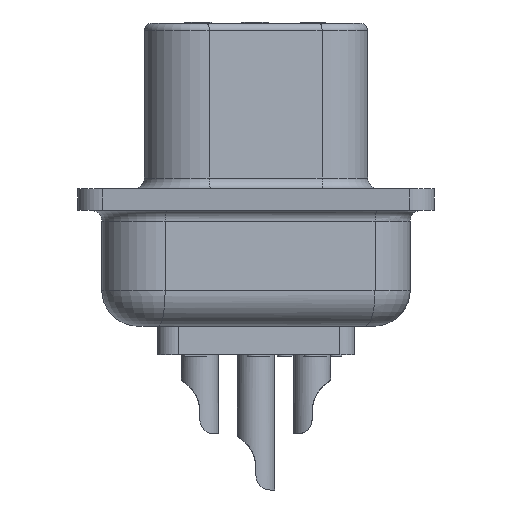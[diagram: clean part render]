
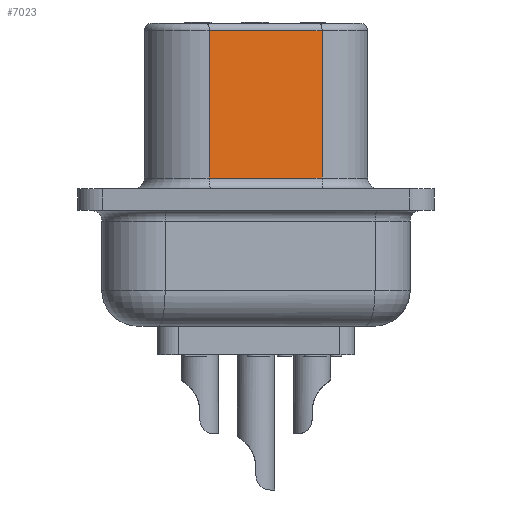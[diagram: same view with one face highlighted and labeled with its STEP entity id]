
A CAD part, left-side view. The second image highlights one B-rep face of the part: STEP entity #7023.
In plain terms, the highlighted planar face has unit normal (-0.985, -0.174, 0).
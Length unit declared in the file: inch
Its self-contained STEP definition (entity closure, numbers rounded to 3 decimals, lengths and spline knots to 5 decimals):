
#2534 = DIRECTION ( 'NONE',  ( 0.174, -0.985, 0. ) ) ;
#2670 = EDGE_CURVE ( 'NONE', #7050, #42230, #17055, .T. ) ;
#2962 = LINE ( 'NONE', #18655, #41592 ) ;
#3119 = ORIENTED_EDGE ( 'NONE', *, *, #7557, .F. ) ;
#3672 = CARTESIAN_POINT ( 'NONE',  ( 0.31485, 0.15613, 0.22 ) ) ;
#3903 = VERTEX_POINT ( 'NONE', #25592 ) ;
#3918 = CARTESIAN_POINT ( 'NONE',  ( 0.28717, 0.31313, 0.22 ) ) ;
#6517 = ORIENTED_EDGE ( 'NONE', *, *, #7575, .T. ) ;
#7023 = ADVANCED_FACE ( 'NONE', ( #12703 ), #29445, .F. ) ;
#7050 = VERTEX_POINT ( 'NONE', #3672 ) ;
#7557 = EDGE_CURVE ( 'NONE', #7050, #33602, #36833, .T. ) ;
#7575 = EDGE_CURVE ( 'NONE', #42230, #3903, #20523, .T. ) ;
#9406 = VECTOR ( 'NONE', #24346, 39.37008 ) ;
#9905 = DIRECTION ( 'NONE',  ( -0.174, 0.985, 0. ) ) ;
#10132 = DIRECTION ( 'NONE',  ( 0.985, 0.174, 0. ) ) ;
#11065 = CARTESIAN_POINT ( 'NONE',  ( 0.28717, 0.31313, 0.23 ) ) ;
#12488 = CARTESIAN_POINT ( 'NONE',  ( 0.31485, 0.15613, 0.23 ) ) ;
#12703 = FACE_OUTER_BOUND ( 'NONE', #41085, .T. ) ;
#14079 = DIRECTION ( 'NONE',  ( 0., 0., -1. ) ) ;
#15077 = CARTESIAN_POINT ( 'NONE',  ( 0.31485, 0.15613, 0.015 ) ) ;
#17055 = LINE ( 'NONE', #23060, #25110 ) ;
#18018 = ORIENTED_EDGE ( 'NONE', *, *, #33111, .T. ) ;
#18655 = CARTESIAN_POINT ( 'NONE',  ( 0.31485, 0.15613, 0.015 ) ) ;
#20523 = LINE ( 'NONE', #11065, #29303 ) ;
#22845 = DIRECTION ( 'NONE',  ( -0.174, 0.985, 0. ) ) ;
#23060 = CARTESIAN_POINT ( 'NONE',  ( 0.31485, 0.15613, 0.22 ) ) ;
#24346 = DIRECTION ( 'NONE',  ( 0., 0., -1. ) ) ;
#25110 = VECTOR ( 'NONE', #22845, 39.37008 ) ;
#25592 = CARTESIAN_POINT ( 'NONE',  ( 0.28717, 0.31313, 0.015 ) ) ;
#28279 = AXIS2_PLACEMENT_3D ( 'NONE', #12488, #10132, #9905 ) ;
#29303 = VECTOR ( 'NONE', #14079, 39.37008 ) ;
#29445 = PLANE ( 'NONE',  #28279 ) ;
#33111 = EDGE_CURVE ( 'NONE', #3903, #33602, #2962, .T. ) ;
#33602 = VERTEX_POINT ( 'NONE', #15077 ) ;
#36833 = LINE ( 'NONE', #40478, #9406 ) ;
#40478 = CARTESIAN_POINT ( 'NONE',  ( 0.31485, 0.15613, 0.23 ) ) ;
#40735 = ORIENTED_EDGE ( 'NONE', *, *, #2670, .T. ) ;
#41085 = EDGE_LOOP ( 'NONE', ( #6517, #18018, #3119, #40735 ) ) ;
#41592 = VECTOR ( 'NONE', #2534, 39.37008 ) ;
#42230 = VERTEX_POINT ( 'NONE', #3918 ) ;
